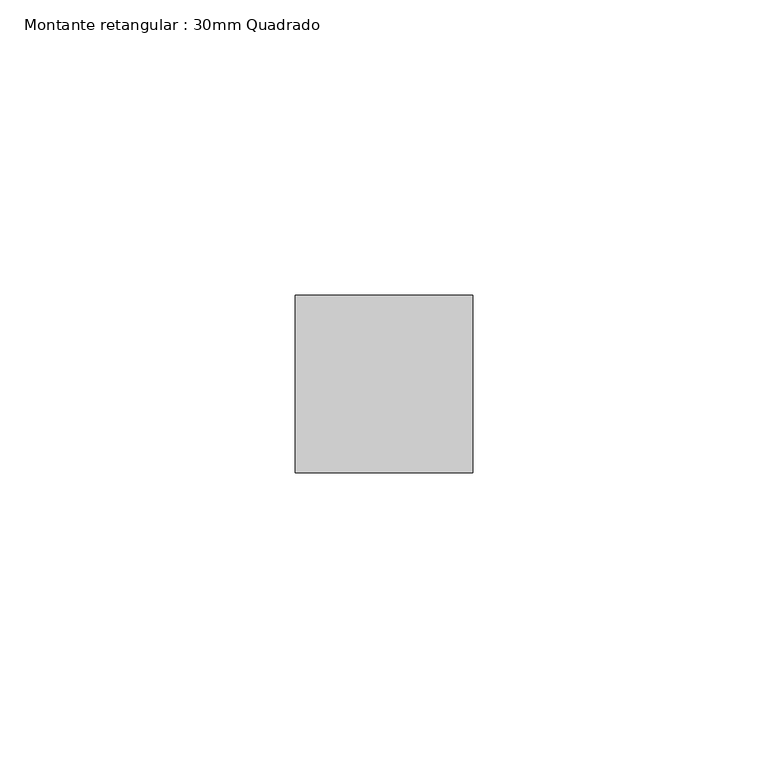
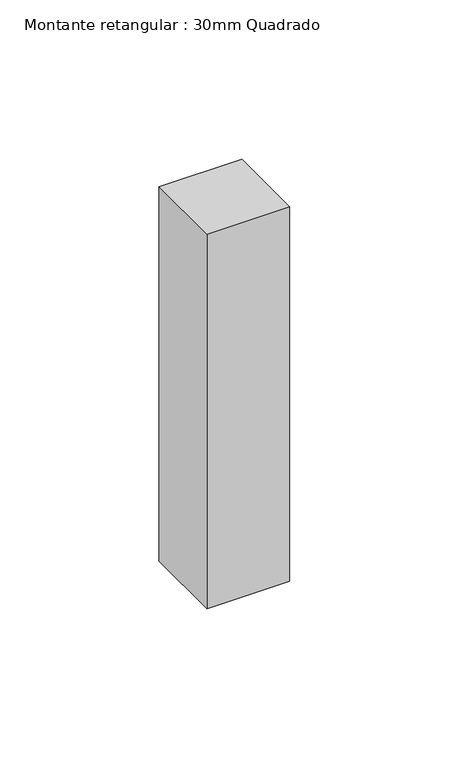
"""IFC4 building model written with IfcOpenShell, lengths in millimetres: member geometry, Montante retangular : 30mm Quadrado."""

from ifc_helpers import new_model, si_unit, frame, origin, place, context, project, spatial, polyline, outline, extrude, source, transform, mapped, element, save


def montante_retangular_30mm_quadrado_1152fbe8(model_context):
    return source(origin(), model_context, "Body", "SweptSolid", [
        extrude(outline(polyline([(15.0, 15.0), (15.0, -15.0), (-15.0, -15.0), (-15.0, 15.0), (15.0, 15.0)])), frame((0.0, 0.0, -143.5314594), z_axis=(0.0, 0.0, 1.0), x_axis=(1.0, 0.0, 0.0)), (0.0, 0.0, 1.0), 143.5314594),
    ])


if __name__ == "__main__":
    model = new_model("IFC4")
    model_context = context("Model", 3, world=origin())
    ifc_project = project(units=[si_unit("LENGTHUNIT", "METRE", prefix="MILLI")], contexts=[model_context])
    site = spatial("IfcSite", under=ifc_project)
    building = spatial("IfcBuilding", under=site)
    placement = place(None, origin())
    montante_retangular_30mm_quadrado_shape = montante_retangular_30mm_quadrado_1152fbe8(model_context)
    element("IfcMember", 1, ObjectType="Montante retangular : 30mm Quadrado", at=placement, inside=building, context=model_context, shape_type="MappedRepresentation", body=[
        mapped(montante_retangular_30mm_quadrado_shape, transform((0.0, 0.0, 0.0), x_axis=(1.0, 0.0, 0.0), y_axis=(0.0, 1.0, 0.0), z_axis=(0.0, 0.0, 1.0))),
    ])
    save(model, "model.ifc")
